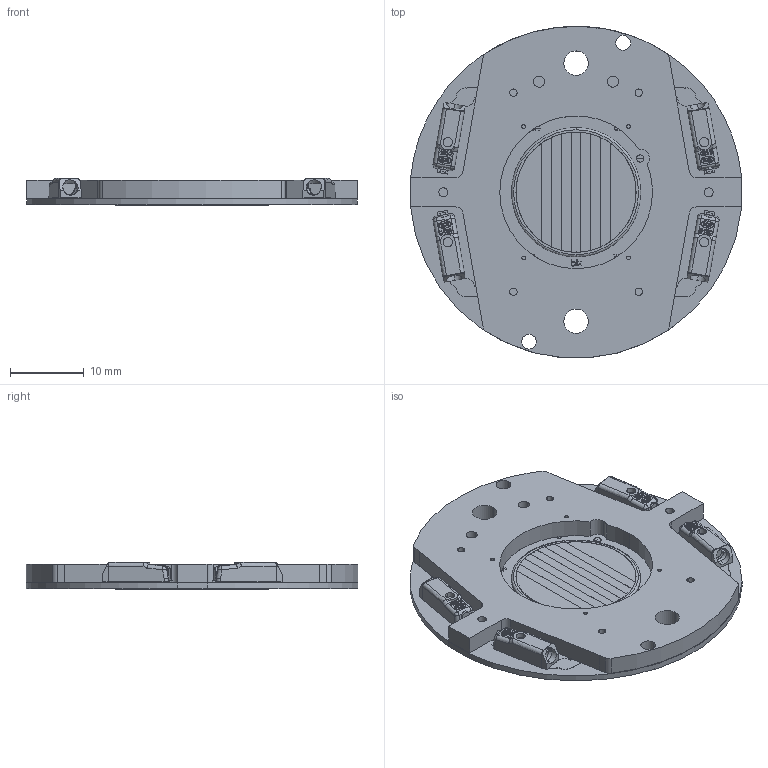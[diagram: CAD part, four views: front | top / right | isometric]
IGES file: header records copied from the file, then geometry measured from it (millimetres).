
Start section: SolidWorks IGES file using analytic representation for surfaces
Global section: file name: C:\Users\jiaqichen\Desktop\DW TW Holder-CoB\New folder\NTW 15 Holder-CoB Assembly.IGS; native system: SolidWorks 2020; preprocessor: SolidWorks 2020; author: jiaqichen; date: 200814.175558; units: millimetre
Bounding box: 44.84 x 44.97 x 3.7 mm (x, y, z)
Volume: 3822.9 mm3; surface area: 6285.5 mm2
Topology: 1 solids, 1 shells, 1544 faces, 4203 edges, 2753 vertices
Faces by surface type: plane 947, revolution 517, bspline 80
